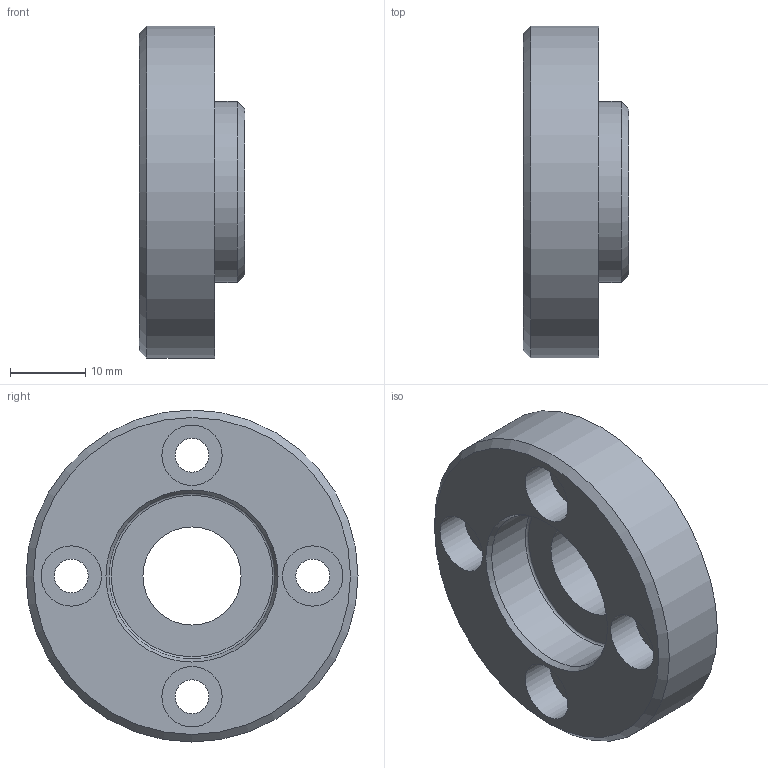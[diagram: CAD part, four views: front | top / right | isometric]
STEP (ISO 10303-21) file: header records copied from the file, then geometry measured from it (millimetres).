
FILE_DESCRIPTION(/* description */ (''),/* implementation_level */ '2;1');
FILE_NAME(/* name */ '',/* time_stamp */ '2024-07-29T13:46:42+09:00',/* author */ ('jhkim'),/* organization */ (''),/* preprocessor_version */ 'ST-DEVELOPER v20',/* originating_system */ 'Autodesk Inventor 2025',/* authorisation */ '');
FILE_SCHEMA (('AUTOMOTIVE_DESIGN { 1 0 10303 214 3 1 1 }'));
Length unit declared in the file: millimetre
Products named in the file (1): 베어링 커버
Bounding box: 14 x 44 x 44 mm (x, y, z)
Volume: 11787.5 mm3; surface area: 5743.6 mm2
Topology: 1 solids, 1 shells, 26 faces, 49 edges, 32 vertices
Faces by surface type: cylinder 13, plane 9, cone 3, torus 1
Full cylindrical faces by diameter (mm): 4.5 x4, 8 x4, 13 x1, 20 x1, 22 x1, 24 x1, 44 x1
Entity records: 733 total; most frequent: DIRECTION 136, CARTESIAN_POINT 108, ORIENTED_EDGE 98, AXIS2_PLACEMENT_3D 60, EDGE_CURVE 49, EDGE_LOOP 43, CIRCLE 33, VERTEX_POINT 32
